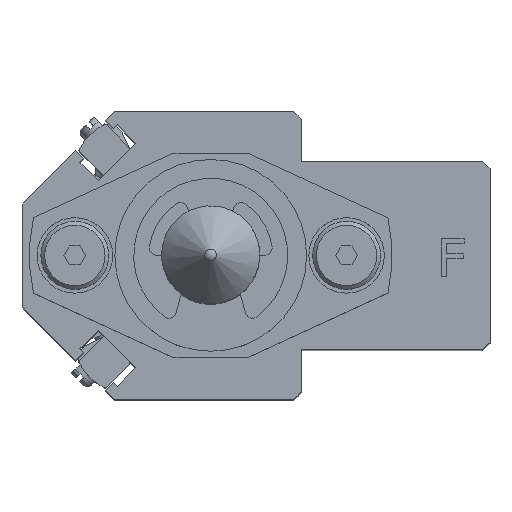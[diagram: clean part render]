
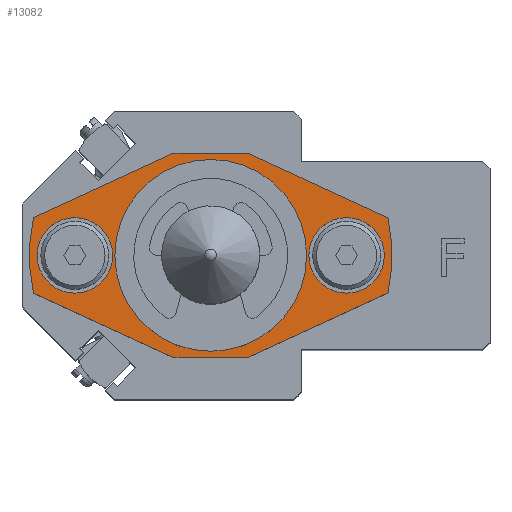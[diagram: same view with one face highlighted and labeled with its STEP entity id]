
A CAD part, top view. The second image highlights one B-rep face of the part: STEP entity #13082.
In plain terms, the highlighted planar face has unit normal (0, 0, 1).
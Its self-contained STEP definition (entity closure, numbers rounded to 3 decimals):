
#363=FACE_BOUND('',#4791,.T.);
#364=FACE_BOUND('',#4792,.T.);
#365=FACE_BOUND('',#4793,.T.);
#1537=LINE('',#21543,#2917);
#1544=LINE('',#21560,#2924);
#1545=LINE('',#21563,#2925);
#1546=LINE('',#21564,#2926);
#1547=LINE('',#21566,#2927);
#1548=LINE('',#21567,#2928);
#2917=VECTOR('',#17457,10.);
#2924=VECTOR('',#17472,10.);
#2925=VECTOR('',#17475,10.);
#2926=VECTOR('',#17476,10.);
#2927=VECTOR('',#17477,10.);
#2928=VECTOR('',#17478,10.);
#3397=CIRCLE('',#14346,10.5);
#3398=CIRCLE('',#14347,10.5);
#3405=CIRCLE('',#14358,24.);
#3407=CIRCLE('',#14361,24.);
#3410=CIRCLE('',#14368,5.);
#3411=CIRCLE('',#14369,5.);
#3412=CIRCLE('',#14370,5.);
#3413=CIRCLE('',#14371,5.);
#4097=FACE_OUTER_BOUND('',#4790,.T.);
#4790=EDGE_LOOP('',(#10998,#10999,#11000,#11001,#11002,#11003,#11004,#11005));
#4791=EDGE_LOOP('',(#11006,#11007));
#4792=EDGE_LOOP('',(#11008,#11009));
#4793=EDGE_LOOP('',(#11010,#11011));
#5953=VERTEX_POINT('',#21501);
#5954=VERTEX_POINT('',#21503);
#5962=VERTEX_POINT('',#21524);
#5963=VERTEX_POINT('',#21526);
#5966=VERTEX_POINT('',#21533);
#5967=VERTEX_POINT('',#21535);
#5969=VERTEX_POINT('',#21541);
#5975=VERTEX_POINT('',#21558);
#5976=VERTEX_POINT('',#21562);
#5977=VERTEX_POINT('',#21565);
#5978=VERTEX_POINT('',#21568);
#5979=VERTEX_POINT('',#21569);
#5980=VERTEX_POINT('',#21572);
#5981=VERTEX_POINT('',#21573);
#7688=EDGE_CURVE('',#5954,#5953,#3397,.T.);
#7689=EDGE_CURVE('',#5953,#5954,#3398,.T.);
#7698=EDGE_CURVE('',#5963,#5962,#3405,.T.);
#7702=EDGE_CURVE('',#5967,#5966,#3407,.T.);
#7706=EDGE_CURVE('',#5962,#5969,#1537,.T.);
#7715=EDGE_CURVE('',#5966,#5975,#1544,.T.);
#7716=EDGE_CURVE('',#5969,#5976,#1545,.T.);
#7717=EDGE_CURVE('',#5976,#5967,#1546,.T.);
#7718=EDGE_CURVE('',#5975,#5977,#1547,.T.);
#7719=EDGE_CURVE('',#5977,#5963,#1548,.T.);
#7720=EDGE_CURVE('',#5978,#5979,#3410,.T.);
#7721=EDGE_CURVE('',#5979,#5978,#3411,.T.);
#7722=EDGE_CURVE('',#5980,#5981,#3412,.T.);
#7723=EDGE_CURVE('',#5981,#5980,#3413,.T.);
#10998=ORIENTED_EDGE('',*,*,#7698,.T.);
#10999=ORIENTED_EDGE('',*,*,#7706,.T.);
#11000=ORIENTED_EDGE('',*,*,#7716,.T.);
#11001=ORIENTED_EDGE('',*,*,#7717,.T.);
#11002=ORIENTED_EDGE('',*,*,#7702,.T.);
#11003=ORIENTED_EDGE('',*,*,#7715,.T.);
#11004=ORIENTED_EDGE('',*,*,#7718,.T.);
#11005=ORIENTED_EDGE('',*,*,#7719,.T.);
#11006=ORIENTED_EDGE('',*,*,#7688,.T.);
#11007=ORIENTED_EDGE('',*,*,#7689,.T.);
#11008=ORIENTED_EDGE('',*,*,#7720,.T.);
#11009=ORIENTED_EDGE('',*,*,#7721,.T.);
#11010=ORIENTED_EDGE('',*,*,#7722,.T.);
#11011=ORIENTED_EDGE('',*,*,#7723,.T.);
#12281=PLANE('',#14367);
#13082=ADVANCED_FACE('',(#4097,#363,#364,#365),#12281,.T.);
#14346=AXIS2_PLACEMENT_3D('',#21504,#17416,#17417);
#14347=AXIS2_PLACEMENT_3D('',#21505,#17418,#17419);
#14358=AXIS2_PLACEMENT_3D('',#21527,#17442,#17443);
#14361=AXIS2_PLACEMENT_3D('',#21536,#17450,#17451);
#14367=AXIS2_PLACEMENT_3D('',#21561,#17473,#17474);
#14368=AXIS2_PLACEMENT_3D('',#21570,#17479,#17480);
#14369=AXIS2_PLACEMENT_3D('',#21571,#17481,#17482);
#14370=AXIS2_PLACEMENT_3D('',#21574,#17483,#17484);
#14371=AXIS2_PLACEMENT_3D('',#21575,#17485,#17486);
#17416=DIRECTION('center_axis',(0.,0.,-1.));
#17417=DIRECTION('ref_axis',(1.,0.,0.));
#17418=DIRECTION('center_axis',(0.,0.,-1.));
#17419=DIRECTION('ref_axis',(1.,0.,0.));
#17442=DIRECTION('center_axis',(0.,0.,1.));
#17443=DIRECTION('ref_axis',(0.978,-0.208,0.));
#17450=DIRECTION('center_axis',(0.,0.,1.));
#17451=DIRECTION('ref_axis',(-0.978,0.208,0.));
#17457=DIRECTION('',(0.908,-0.418,0.));
#17472=DIRECTION('',(-0.908,0.418,0.));
#17473=DIRECTION('center_axis',(0.,0.,1.));
#17474=DIRECTION('ref_axis',(1.,0.,0.));
#17475=DIRECTION('',(1.,0.,0.));
#17476=DIRECTION('',(0.908,0.418,0.));
#17477=DIRECTION('',(-1.,0.,0.));
#17478=DIRECTION('',(-0.908,-0.418,0.));
#17479=DIRECTION('center_axis',(0.,0.,-1.));
#17480=DIRECTION('ref_axis',(1.,0.,0.));
#17481=DIRECTION('center_axis',(0.,0.,-1.));
#17482=DIRECTION('ref_axis',(1.,0.,0.));
#17483=DIRECTION('center_axis',(0.,0.,-1.));
#17484=DIRECTION('ref_axis',(1.,0.,0.));
#17485=DIRECTION('center_axis',(0.,0.,-1.));
#17486=DIRECTION('ref_axis',(1.,0.,0.));
#21501=CARTESIAN_POINT('',(-10.5,0.,6.));
#21503=CARTESIAN_POINT('',(10.5,0.,6.));
#21504=CARTESIAN_POINT('Origin',(0.,0.,6.));
#21505=CARTESIAN_POINT('Origin',(0.,0.,6.));
#21524=CARTESIAN_POINT('',(-23.473,-5.001,6.));
#21526=CARTESIAN_POINT('',(-23.473,5.001,6.));
#21527=CARTESIAN_POINT('Origin',(0.,0.,6.));
#21533=CARTESIAN_POINT('',(23.473,5.001,6.));
#21535=CARTESIAN_POINT('',(23.473,-5.001,6.));
#21536=CARTESIAN_POINT('Origin',(0.,0.,6.));
#21541=CARTESIAN_POINT('',(-5.,-13.5,6.));
#21543=CARTESIAN_POINT('',(-15.7,-8.578,6.));
#21558=CARTESIAN_POINT('',(5.,13.5,6.));
#21560=CARTESIAN_POINT('',(15.7,8.578,6.));
#21561=CARTESIAN_POINT('Origin',(0.,0.,6.));
#21562=CARTESIAN_POINT('',(5.,-13.5,6.));
#21563=CARTESIAN_POINT('',(25.4,-13.5,6.));
#21564=CARTESIAN_POINT('',(15.7,-8.578,6.));
#21565=CARTESIAN_POINT('',(-5.,13.5,6.));
#21566=CARTESIAN_POINT('',(-25.4,13.5,6.));
#21567=CARTESIAN_POINT('',(-15.7,8.578,6.));
#21568=CARTESIAN_POINT('',(-13.,0.,6.));
#21569=CARTESIAN_POINT('',(-23.,0.,6.));
#21570=CARTESIAN_POINT('Origin',(-18.,0.,6.));
#21571=CARTESIAN_POINT('Origin',(-18.,0.,6.));
#21572=CARTESIAN_POINT('',(23.,0.,6.));
#21573=CARTESIAN_POINT('',(13.,0.,6.));
#21574=CARTESIAN_POINT('Origin',(18.,0.,6.));
#21575=CARTESIAN_POINT('Origin',(18.,0.,6.));
